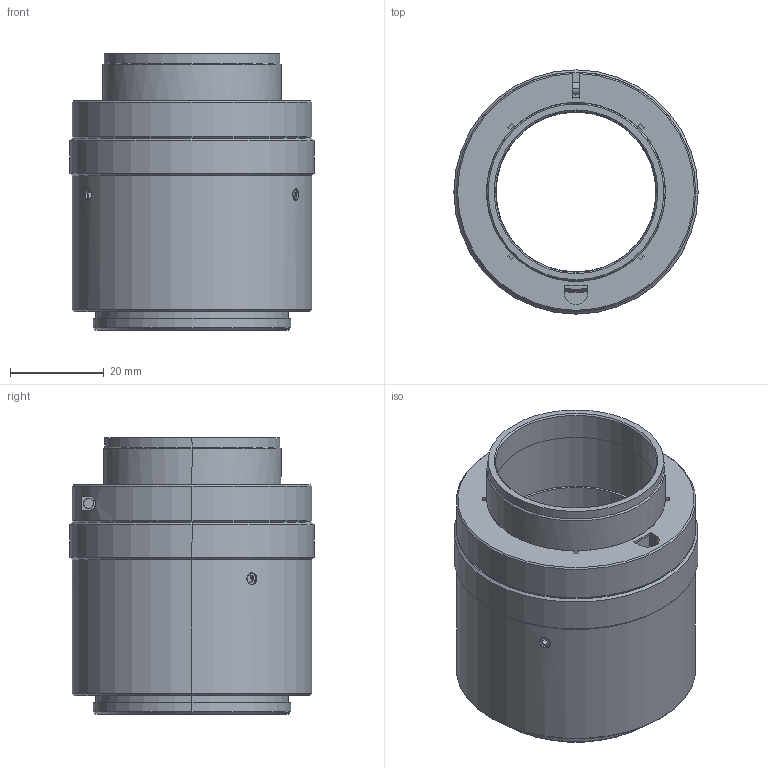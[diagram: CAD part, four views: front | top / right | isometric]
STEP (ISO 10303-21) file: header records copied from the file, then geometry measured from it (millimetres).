
FILE_DESCRIPTION (( 'STEP AP214' ), '1' );
FILE_NAME ('ML-5540-TUBE-M42.STEP', '2026-02-24T07:33:33', ( '' ), ( '' ), 'SwSTEP 2.0', 'SolidWorks 2025', '' );
FILE_SCHEMA (( 'AUTOMOTIVE_DESIGN' ));
Length unit declared in the file: millimetre
Products named in the file (1): ML-5540-TUBE-M42
Bounding box: 52 x 52 x 58.9 mm (x, y, z)
Volume: 37820.9 mm3; surface area: 21102 mm2
Topology: 1 solids, 13 shells, 362 faces, 878 edges, 564 vertices
Faces by surface type: plane 177, cone 105, cylinder 76, torus 4
Entity records: 11455 total; most frequent: CARTESIAN_POINT 3119, ORIENTED_EDGE 1744, DIRECTION 1657, EDGE_CURVE 872, AXIS2_PLACEMENT_3D 593, VERTEX_POINT 564, VECTOR 471, LINE 471
